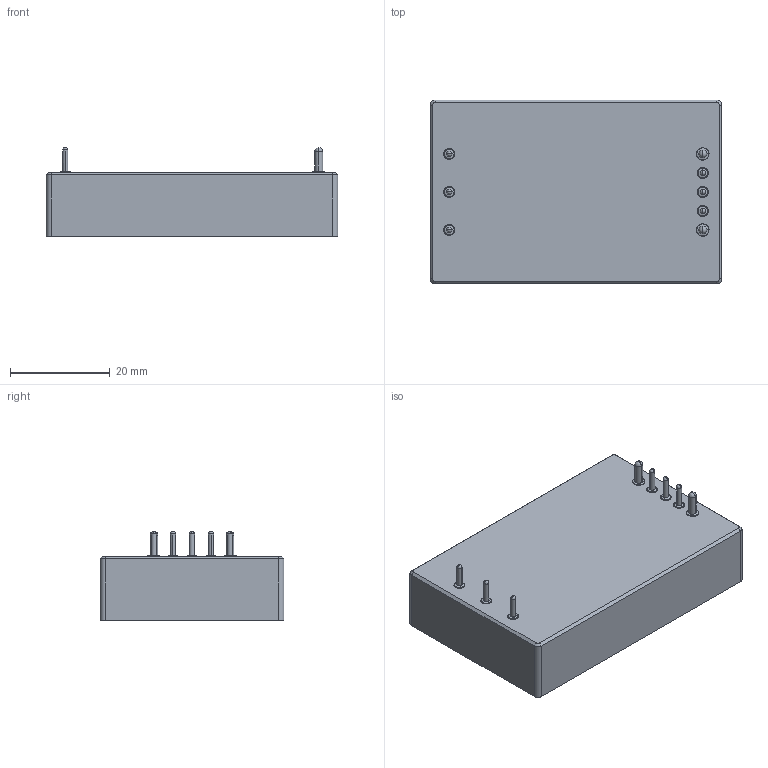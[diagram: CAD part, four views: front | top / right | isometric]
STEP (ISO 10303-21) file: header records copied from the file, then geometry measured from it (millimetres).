
FILE_DESCRIPTION (( 'STEP AP214' ), '1' );
FILE_NAME ('KMBM02----.STEP', '2023-08-12T15:12:10', ( '' ), ( '' ), 'SwSTEP 2.0', 'SolidWorks 2021', '' );
FILE_SCHEMA (( 'AUTOMOTIVE_DESIGN' ));
Length unit declared in the file: millimetre
Products named in the file (1): KMBM02----
Bounding box: 58.42 x 36.83 x 17.85 mm (x, y, z)
Volume: 11058.3 mm3; surface area: 18723.1 mm2
Topology: 1 solids, 1 shells, 538 faces, 1358 edges, 840 vertices
Faces by surface type: plane 278, cylinder 172, cone 68, sphere 18, bspline 2
Entity records: 20240 total; most frequent: CARTESIAN_POINT 10135, ORIENTED_EDGE 2660, EDGE_CURVE 1330, B_SPLINE_CURVE_WITH_KNOTS 1310, DIRECTION 1092, VERTEX_POINT 832, EDGE_LOOP 598, FACE_OUTER_BOUND 538
